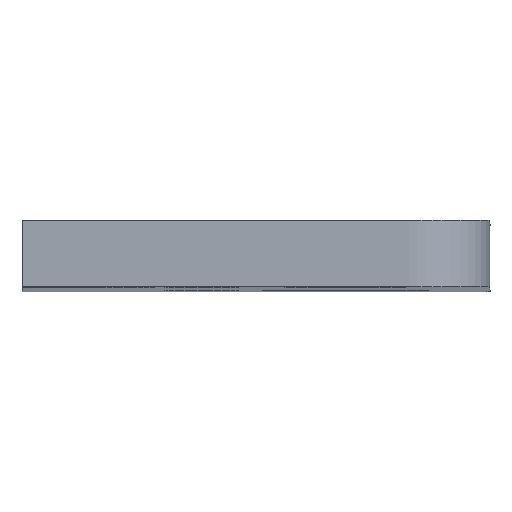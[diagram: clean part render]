
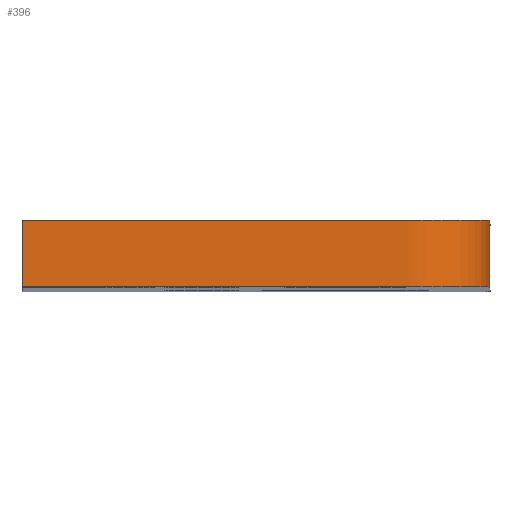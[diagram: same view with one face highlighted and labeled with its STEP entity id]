
A CAD part, top view. The second image highlights one B-rep face of the part: STEP entity #396.
In plain terms, the highlighted free-form (B-spline) face has degree [2, 1] with [11, 2] control points.
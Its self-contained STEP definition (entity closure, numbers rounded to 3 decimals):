
#10 = CARTESIAN_POINT ( 'NONE',  ( 400.769, -430.16, 150.12 ) ) ;
#12 = CARTESIAN_POINT ( 'NONE',  ( 412.419, -430.16, 150.12 ) ) ;
#14 = LINE ( 'NONE', #508, #120 ) ;
#17 = CARTESIAN_POINT ( 'NONE',  ( 417.419, -430.16, -21.78 ) ) ;
#22 = CARTESIAN_POINT ( 'NONE',  ( 400.769, -426.16, -26.78 ) ) ;
#23 = VERTEX_POINT ( 'NONE', #515 ) ;
#28 = CARTESIAN_POINT ( 'NONE',  ( 417.419, -430.96, -26.78 ) ) ;
#31 = CARTESIAN_POINT ( 'NONE',  ( 389.119, -426.16, 150.12 ) ) ;
#43 = EDGE_CURVE ( 'NONE', #837, #653, #14, .T. ) ;
#44 = CARTESIAN_POINT ( 'NONE',  ( 417.419, -426.16, 150.12 ) ) ;
#90 = VERTEX_POINT ( 'NONE', #713 ) ;
#110 = CARTESIAN_POINT ( 'NONE',  ( 417.419, -426.16, -21.78 ) ) ;
#120 = VECTOR ( 'NONE', #166, 1000. ) ;
#137 = DIRECTION ( 'NONE',  ( 0., 1., 0. ) ) ;
#141 = ORIENTED_EDGE ( 'NONE', *, *, #624, .F. ) ;
#145 = FACE_OUTER_BOUND ( 'NONE', #373, .T. ) ;
#151 = CARTESIAN_POINT ( 'NONE',  ( 389.119, -430.16, 150.12 ) ) ;
#166 = DIRECTION ( 'NONE',  ( 0., -1., 0. ) ) ;
#178 = CARTESIAN_POINT ( 'NONE',  ( 389.119, -426.16, -26.78 ) ) ;
#185 = CARTESIAN_POINT ( 'NONE',  ( 389.119, -430.96, -26.78 ) ) ;
#200 = LINE ( 'NONE', #204, #520 ) ;
#204 = CARTESIAN_POINT ( 'NONE',  ( 389.119, -428.56, -26.78 ) ) ;
#231 = CARTESIAN_POINT ( 'NONE',  ( 389.119, -430.96, 150.12 ) ) ;
#240 = ORIENTED_EDGE ( 'NONE', *, *, #882, .T. ) ;
#246 = CARTESIAN_POINT ( 'NONE',  ( 417.419, -426.16, 145.12 ) ) ;
#251 = CARTESIAN_POINT ( 'NONE',  ( 389.119, -426.16, 150.12 ) ) ;
#260 =( BOUNDED_CURVE ( )  B_SPLINE_CURVE ( 2, ( #424, #10, #12, #291, #648, #511, #17, #602, #324, #743, #683 ),
 .UNSPECIFIED., .F., .F. ) 
 B_SPLINE_CURVE_WITH_KNOTS ( ( 3, 2, 2, 2, 2, 3 ),
 ( 0., 0.023, 0.031, 0.197, 0.205, 0.228 ),
 .UNSPECIFIED. ) 
 CURVE ( )  GEOMETRIC_REPRESENTATION_ITEM ( )  RATIONAL_B_SPLINE_CURVE ( ( 1., 1., 1., 0.707, 1., 1., 1., 0.707, 1., 1., 1. ) ) 
 REPRESENTATION_ITEM ( '' )  );
#272 = CARTESIAN_POINT ( 'NONE',  ( 417.419, -426.16, 150.12 ) ) ;
#291 = CARTESIAN_POINT ( 'NONE',  ( 417.419, -430.16, 150.12 ) ) ;
#324 = CARTESIAN_POINT ( 'NONE',  ( 412.419, -430.16, -26.78 ) ) ;
#347 = CARTESIAN_POINT ( 'NONE',  ( 389.119, -426.16, -26.78 ) ) ;
#364 = CARTESIAN_POINT ( 'NONE',  ( 417.419, -426.16, 61.67 ) ) ;
#373 = EDGE_LOOP ( 'NONE', ( #395, #240, #141, #835 ) ) ;
#395 = ORIENTED_EDGE ( 'NONE', *, *, #699, .T. ) ;
#396 = ADVANCED_FACE ( 'NONE', ( #145 ), #413, .T. ) ;
#413 =( BOUNDED_SURFACE ( )  B_SPLINE_SURFACE ( 2, 1, ( 
 ( #178, #185 ),
 ( #22, #656 ),
 ( #449, #443 ),
 ( #595, #28 ),
 ( #110, #665 ),
 ( #364, #668 ),
 ( #246, #872 ),
 ( #44, #857 ),
 ( #730, #792 ),
 ( #734, #877 ),
 ( #251, #231 ) ),
 .UNSPECIFIED., .F., .F., .T. ) 
 B_SPLINE_SURFACE_WITH_KNOTS ( ( 3, 2, 2, 2, 2, 3 ),
 ( 2, 2 ),
 ( 0., 23.3, 31.154, 198.054, 205.908, 229.208 ),
 ( 0., 0.48 ),
 .UNSPECIFIED. ) 
 GEOMETRIC_REPRESENTATION_ITEM ( )  RATIONAL_B_SPLINE_SURFACE ( (
 ( 1., 1.),
 ( 1., 1.),
 ( 1., 1.),
 ( 0.707, 0.707),
 ( 1., 1.),
 ( 1., 1.),
 ( 1., 1.),
 ( 0.707, 0.707),
 ( 1., 1.),
 ( 1., 1.),
 ( 1., 1.) ) ) 
 REPRESENTATION_ITEM ( '' )  SURFACE ( )  );
#424 = CARTESIAN_POINT ( 'NONE',  ( 389.119, -430.16, 150.12 ) ) ;
#429 = CARTESIAN_POINT ( 'NONE',  ( 400.769, -426.16, 150.12 ) ) ;
#443 = CARTESIAN_POINT ( 'NONE',  ( 412.419, -430.96, -26.78 ) ) ;
#449 = CARTESIAN_POINT ( 'NONE',  ( 412.419, -426.16, -26.78 ) ) ;
#480 =( BOUNDED_CURVE ( )  B_SPLINE_CURVE ( 2, ( #31, #429, #829, #272, #560, #758, #623, #629, #826, #689, #347 ),
 .UNSPECIFIED., .F., .F. ) 
 B_SPLINE_CURVE_WITH_KNOTS ( ( 3, 2, 2, 2, 2, 3 ),
 ( 0., 0.023, 0.031, 0.197, 0.205, 0.228 ),
 .UNSPECIFIED. ) 
 CURVE ( )  GEOMETRIC_REPRESENTATION_ITEM ( )  RATIONAL_B_SPLINE_CURVE ( ( 1., 1., 1., 0.707, 1., 1., 1., 0.707, 1., 1., 1. ) ) 
 REPRESENTATION_ITEM ( '' )  );
#488 = CARTESIAN_POINT ( 'NONE',  ( 389.119, -426.16, 150.12 ) ) ;
#508 = CARTESIAN_POINT ( 'NONE',  ( 389.119, -428.56, 150.12 ) ) ;
#511 = CARTESIAN_POINT ( 'NONE',  ( 417.419, -430.16, 61.67 ) ) ;
#515 = CARTESIAN_POINT ( 'NONE',  ( 389.119, -426.16, -26.78 ) ) ;
#520 = VECTOR ( 'NONE', #137, 1000. ) ;
#560 = CARTESIAN_POINT ( 'NONE',  ( 417.419, -426.16, 145.12 ) ) ;
#595 = CARTESIAN_POINT ( 'NONE',  ( 417.419, -426.16, -26.78 ) ) ;
#602 = CARTESIAN_POINT ( 'NONE',  ( 417.419, -430.16, -26.78 ) ) ;
#623 = CARTESIAN_POINT ( 'NONE',  ( 417.419, -426.16, -21.78 ) ) ;
#624 = EDGE_CURVE ( 'NONE', #837, #23, #480, .T. ) ;
#629 = CARTESIAN_POINT ( 'NONE',  ( 417.419, -426.16, -26.78 ) ) ;
#648 = CARTESIAN_POINT ( 'NONE',  ( 417.419, -430.16, 145.12 ) ) ;
#653 = VERTEX_POINT ( 'NONE', #151 ) ;
#656 = CARTESIAN_POINT ( 'NONE',  ( 400.769, -430.96, -26.78 ) ) ;
#665 = CARTESIAN_POINT ( 'NONE',  ( 417.419, -430.96, -21.78 ) ) ;
#668 = CARTESIAN_POINT ( 'NONE',  ( 417.419, -430.96, 61.67 ) ) ;
#683 = CARTESIAN_POINT ( 'NONE',  ( 389.119, -430.16, -26.78 ) ) ;
#689 = CARTESIAN_POINT ( 'NONE',  ( 400.769, -426.16, -26.78 ) ) ;
#699 = EDGE_CURVE ( 'NONE', #653, #90, #260, .T. ) ;
#713 = CARTESIAN_POINT ( 'NONE',  ( 389.119, -430.16, -26.78 ) ) ;
#730 = CARTESIAN_POINT ( 'NONE',  ( 412.419, -426.16, 150.12 ) ) ;
#734 = CARTESIAN_POINT ( 'NONE',  ( 400.769, -426.16, 150.12 ) ) ;
#743 = CARTESIAN_POINT ( 'NONE',  ( 400.769, -430.16, -26.78 ) ) ;
#758 = CARTESIAN_POINT ( 'NONE',  ( 417.419, -426.16, 61.67 ) ) ;
#792 = CARTESIAN_POINT ( 'NONE',  ( 412.419, -430.96, 150.12 ) ) ;
#826 = CARTESIAN_POINT ( 'NONE',  ( 412.419, -426.16, -26.78 ) ) ;
#829 = CARTESIAN_POINT ( 'NONE',  ( 412.419, -426.16, 150.12 ) ) ;
#835 = ORIENTED_EDGE ( 'NONE', *, *, #43, .T. ) ;
#837 = VERTEX_POINT ( 'NONE', #488 ) ;
#857 = CARTESIAN_POINT ( 'NONE',  ( 417.419, -430.96, 150.12 ) ) ;
#872 = CARTESIAN_POINT ( 'NONE',  ( 417.419, -430.96, 145.12 ) ) ;
#877 = CARTESIAN_POINT ( 'NONE',  ( 400.769, -430.96, 150.12 ) ) ;
#882 = EDGE_CURVE ( 'NONE', #90, #23, #200, .T. ) ;
